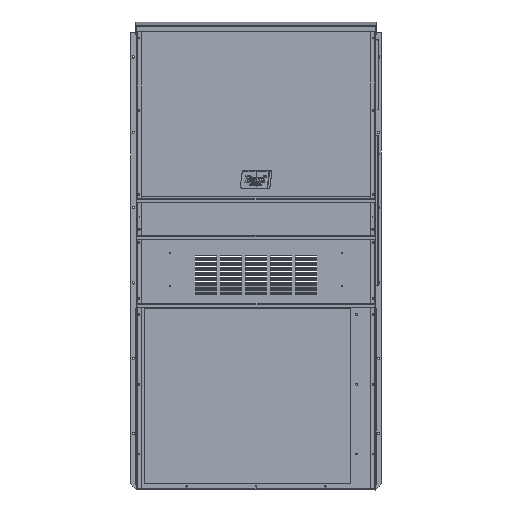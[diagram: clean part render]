
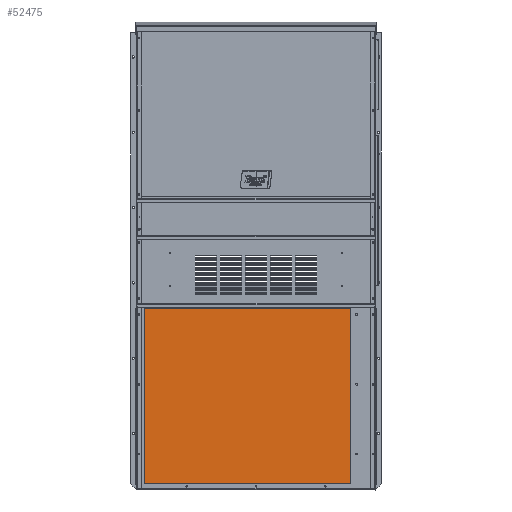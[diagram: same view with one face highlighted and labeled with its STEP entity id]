
A CAD part, top view. The second image highlights one B-rep face of the part: STEP entity #52475.
In plain terms, the highlighted planar face has unit normal (0, 0, 1).
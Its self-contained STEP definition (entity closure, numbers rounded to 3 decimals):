
#266 = VECTOR ( 'NONE', #39022, 39.37 ) ;
#4562 = EDGE_CURVE ( 'NONE', #9087, #86750, #19442, .T. ) ;
#6634 = EDGE_CURVE ( 'NONE', #31255, #9087, #23503, .T. ) ;
#9087 = VERTEX_POINT ( 'NONE', #119288 ) ;
#9121 = CARTESIAN_POINT ( 'NONE',  ( -16.012, -52.191, 9.226 ) ) ;
#12841 = VECTOR ( 'NONE', #90228, 39.37 ) ;
#13725 = LINE ( 'NONE', #55476, #116330 ) ;
#19442 = LINE ( 'NONE', #109827, #42728 ) ;
#21662 = VERTEX_POINT ( 'NONE', #69109 ) ;
#23503 = LINE ( 'NONE', #29061, #266 ) ;
#29061 = CARTESIAN_POINT ( 'NONE',  ( -16.012, -24.293, 9.226 ) ) ;
#31255 = VERTEX_POINT ( 'NONE', #9121 ) ;
#37489 = PLANE ( 'NONE',  #61435 ) ;
#39022 = DIRECTION ( 'NONE',  ( 0., 1., 0. ) ) ;
#42728 = VECTOR ( 'NONE', #119404, 39.37 ) ;
#50520 = EDGE_CURVE ( 'NONE', #21662, #31255, #13725, .T. ) ;
#50663 = CARTESIAN_POINT ( 'NONE',  ( 16.914, -24.293, 9.226 ) ) ;
#52475 = ADVANCED_FACE ( 'NONE', ( #106581 ), #37489, .F. ) ;
#55476 = CARTESIAN_POINT ( 'NONE',  ( -16.012, -52.191, 9.226 ) ) ;
#57440 = DIRECTION ( 'NONE',  ( 0., 1., 0. ) ) ;
#61435 = AXIS2_PLACEMENT_3D ( 'NONE', #107015, #117029, #57440 ) ;
#62318 = ORIENTED_EDGE ( 'NONE', *, *, #6634, .F. ) ;
#63033 = ORIENTED_EDGE ( 'NONE', *, *, #113523, .F. ) ;
#69109 = CARTESIAN_POINT ( 'NONE',  ( 16.914, -52.191, 9.226 ) ) ;
#86750 = VERTEX_POINT ( 'NONE', #117521 ) ;
#90228 = DIRECTION ( 'NONE',  ( 0., -1., 0. ) ) ;
#95522 = DIRECTION ( 'NONE',  ( -1., 0., 0. ) ) ;
#97818 = ORIENTED_EDGE ( 'NONE', *, *, #50520, .F. ) ;
#106581 = FACE_OUTER_BOUND ( 'NONE', #121943, .T. ) ;
#107015 = CARTESIAN_POINT ( 'NONE',  ( 16.914, -24.293, 9.226 ) ) ;
#109827 = CARTESIAN_POINT ( 'NONE',  ( -16.012, -24.293, 9.226 ) ) ;
#113358 = ORIENTED_EDGE ( 'NONE', *, *, #4562, .F. ) ;
#113523 = EDGE_CURVE ( 'NONE', #86750, #21662, #118566, .T. ) ;
#116330 = VECTOR ( 'NONE', #95522, 39.37 ) ;
#117029 = DIRECTION ( 'NONE',  ( 0., 0., -1. ) ) ;
#117521 = CARTESIAN_POINT ( 'NONE',  ( 16.914, -24.293, 9.226 ) ) ;
#118566 = LINE ( 'NONE', #50663, #12841 ) ;
#119288 = CARTESIAN_POINT ( 'NONE',  ( -16.012, -24.293, 9.226 ) ) ;
#119404 = DIRECTION ( 'NONE',  ( 1., 0., 0. ) ) ;
#121943 = EDGE_LOOP ( 'NONE', ( #97818, #63033, #113358, #62318 ) ) ;
